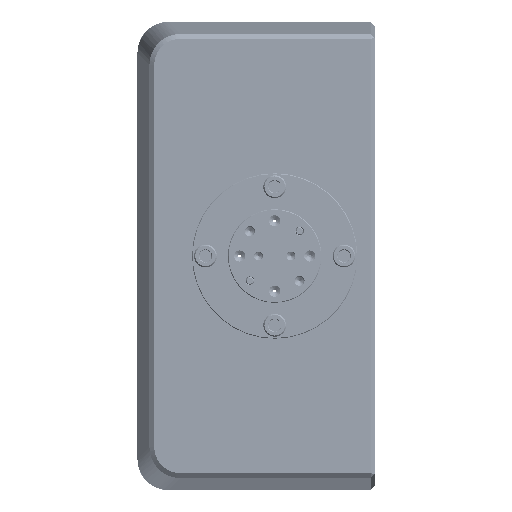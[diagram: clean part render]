
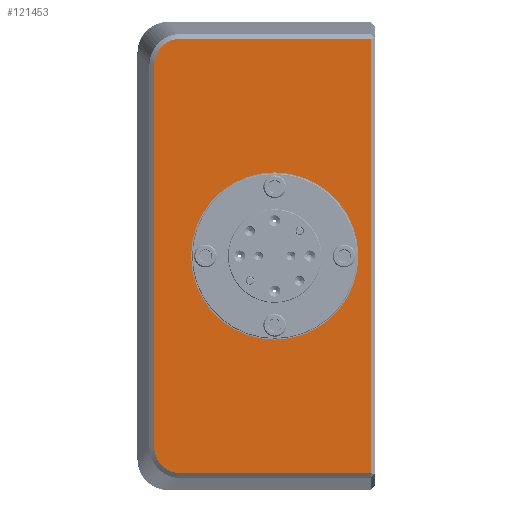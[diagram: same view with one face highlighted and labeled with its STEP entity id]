
A CAD part, left-side view. The second image highlights one B-rep face of the part: STEP entity #121453.
In plain terms, the highlighted planar face has unit normal (-1, 0, 0).
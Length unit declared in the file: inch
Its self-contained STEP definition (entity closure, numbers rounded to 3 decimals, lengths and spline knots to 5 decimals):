
#420 = EDGE_CURVE ( 'NONE', #176703, #52143, #77272, .T. ) ;
#1920 = CIRCLE ( 'NONE', #158933, 0.67 ) ;
#3138 = ORIENTED_EDGE ( 'NONE', *, *, #180523, .F. ) ;
#4277 = LINE ( 'NONE', #211951, #139910 ) ;
#6672 = CARTESIAN_POINT ( 'NONE',  ( -0.753, 1.69449, 1.68872 ) ) ;
#7291 = CARTESIAN_POINT ( 'NONE',  ( -0.753, 1.55616, -1.74008 ) ) ;
#7762 = CARTESIAN_POINT ( 'NONE',  ( -0.753, 1.76374, 1.55859 ) ) ;
#10897 = CARTESIAN_POINT ( 'NONE',  ( -0.753, 0.8, -0.67 ) ) ;
#12303 = CARTESIAN_POINT ( 'NONE',  ( -0.753, 1.55616, 1.74008 ) ) ;
#12908 = CARTESIAN_POINT ( 'NONE',  ( -0.753, 1.58359, -1.73874 ) ) ;
#15986 = CARTESIAN_POINT ( 'NONE',  ( -0.753, 0.8, 0. ) ) ;
#20774 = LINE ( 'NONE', #21866, #87847 ) ;
#21866 = CARTESIAN_POINT ( 'NONE',  ( -0.753, 1.76508, 0. ) ) ;
#23385 = CARTESIAN_POINT ( 'NONE',  ( -0.753, 1.76508, 1.54493 ) ) ;
#23494 = VERTEX_POINT ( 'NONE', #12303 ) ;
#24376 = CARTESIAN_POINT ( 'NONE',  ( -0.753, 1.56993, -1.74008 ) ) ;
#25583 = CARTESIAN_POINT ( 'NONE',  ( -0.753, 1.66105, 1.71262 ) ) ;
#31391 = EDGE_CURVE ( 'NONE', #23494, #50157, #120710, .T. ) ;
#38543 = CARTESIAN_POINT ( 'NONE',  ( -0.753, 0.8, 0. ) ) ;
#43431 = CARTESIAN_POINT ( 'NONE',  ( -0.753, 1.55616, 1.74008 ) ) ;
#45684 = CARTESIAN_POINT ( 'NONE',  ( -0.753, 1.76508, 1.53116 ) ) ;
#47516 = CARTESIAN_POINT ( 'NONE',  ( -0.753, 1.62377, -1.72945 ) ) ;
#47858 = CARTESIAN_POINT ( 'NONE',  ( -0.753, 0.95, 1.74008 ) ) ;
#50157 = VERTEX_POINT ( 'NONE', #184959 ) ;
#51376 = EDGE_CURVE ( 'NONE', #68469, #77808, #55245, .T. ) ;
#52143 = VERTEX_POINT ( 'NONE', #137331 ) ;
#55245 = LINE ( 'NONE', #209399, #183703 ) ;
#57981 = CARTESIAN_POINT ( 'NONE',  ( -0.753, 1.75445, 1.59877 ) ) ;
#59354 = DIRECTION ( 'NONE',  ( 0., 0., -1. ) ) ;
#60186 = CARTESIAN_POINT ( 'NONE',  ( -0.753, 1.58357, 1.73873 ) ) ;
#62675 = DIRECTION ( 'NONE',  ( 1., 0., 0. ) ) ;
#64584 = LINE ( 'NONE', #47858, #110090 ) ;
#68469 = VERTEX_POINT ( 'NONE', #7291 ) ;
#74623 = CARTESIAN_POINT ( 'NONE',  ( -0.753, 1.75444, -1.59878 ) ) ;
#74736 = CARTESIAN_POINT ( 'NONE',  ( -0.753, 1.73762, 1.63605 ) ) ;
#77272 = CIRCLE ( 'NONE', #123684, 0.67 ) ;
#77808 = VERTEX_POINT ( 'NONE', #151268 ) ;
#82270 = EDGE_LOOP ( 'NONE', ( #194893, #130398, #141819, #218241, #171706, #124981 ) ) ;
#84079 = DIRECTION ( 'NONE',  ( -1., 0., 0. ) ) ;
#84326 = B_SPLINE_CURVE_WITH_KNOTS ( 'NONE', 3,
 ( #109240, #178528, #127089, #114500, #74623, #216206, #200537, #201631, #143865, #210937, #116701, #150266, #125997, #47516, #96621, #12908, #24376, #110342 ),
 .UNSPECIFIED., .F., .F.,
 ( 4, 2, 2, 2, 2, 2, 2, 2, 4 ),
 ( 0., 0.125, 0.25, 0.375, 0.5, 0.625, 0.75, 0.875, 1. ),
 .UNSPECIFIED. ) ;
#87847 = VECTOR ( 'NONE', #92151, 39.37008 ) ;
#89887 = DIRECTION ( 'NONE',  ( 0., 0., 1. ) ) ;
#92146 = VERTEX_POINT ( 'NONE', #152798 ) ;
#92151 = DIRECTION ( 'NONE',  ( 0., 0., -1. ) ) ;
#92571 = CARTESIAN_POINT ( 'NONE',  ( -0.753, 1.64898, 1.71906 ) ) ;
#94775 = CARTESIAN_POINT ( 'NONE',  ( -0.753, 1.68393, 1.69737 ) ) ;
#95061 = FACE_BOUND ( 'NONE', #165072, .T. ) ;
#95894 = CARTESIAN_POINT ( 'NONE',  ( -0.753, 1.56989, 1.74008 ) ) ;
#96621 = CARTESIAN_POINT ( 'NONE',  ( -0.753, 1.61068, -1.73339 ) ) ;
#102057 = EDGE_CURVE ( 'NONE', #92146, #68469, #84326, .T. ) ;
#109240 = CARTESIAN_POINT ( 'NONE',  ( -0.753, 1.76508, -1.53116 ) ) ;
#110090 = VECTOR ( 'NONE', #115944, 39.37008 ) ;
#110342 = CARTESIAN_POINT ( 'NONE',  ( -0.753, 1.55616, -1.74008 ) ) ;
#114500 = CARTESIAN_POINT ( 'NONE',  ( -0.753, 1.75839, -1.58565 ) ) ;
#115944 = DIRECTION ( 'NONE',  ( 0., 1., 0. ) ) ;
#116540 = EDGE_CURVE ( 'NONE', #50157, #92146, #20774, .T. ) ;
#116701 = CARTESIAN_POINT ( 'NONE',  ( -0.753, 1.68393, -1.69737 ) ) ;
#119350 = ORIENTED_EDGE ( 'NONE', *, *, #420, .F. ) ;
#120679 = AXIS2_PLACEMENT_3D ( 'NONE', #182257, #62675, #59354 ) ;
#120710 = B_SPLINE_CURVE_WITH_KNOTS ( 'NONE', 3,
 ( #43431, #95894, #60186, #177523, #159652, #92571, #25583, #94775, #6672, #196467, #211044, #74736, #160749, #57981, #147333, #7762, #23385, #45684 ),
 .UNSPECIFIED., .F., .F.,
 ( 4, 2, 2, 2, 2, 2, 2, 2, 4 ),
 ( 0., 0.125, 0.25, 0.375, 0.5, 0.625, 0.75, 0.875, 1. ),
 .UNSPECIFIED. ) ;
#121453 = ADVANCED_FACE ( 'NONE', ( #95061, #177816 ), #216887, .F. ) ;
#123684 = AXIS2_PLACEMENT_3D ( 'NONE', #15986, #84079, #171250 ) ;
#124981 = ORIENTED_EDGE ( 'NONE', *, *, #116540, .T. ) ;
#125997 = CARTESIAN_POINT ( 'NONE',  ( -0.753, 1.64899, -1.71905 ) ) ;
#127089 = CARTESIAN_POINT ( 'NONE',  ( -0.753, 1.76373, -1.55857 ) ) ;
#130398 = ORIENTED_EDGE ( 'NONE', *, *, #51376, .T. ) ;
#137331 = CARTESIAN_POINT ( 'NONE',  ( -0.753, 0.8, 0.67 ) ) ;
#139910 = VECTOR ( 'NONE', #160563, 39.37008 ) ;
#140145 = DIRECTION ( 'NONE',  ( 0., -1., 0. ) ) ;
#141819 = ORIENTED_EDGE ( 'NONE', *, *, #197586, .T. ) ;
#143865 = CARTESIAN_POINT ( 'NONE',  ( -0.753, 1.71372, -1.66949 ) ) ;
#147333 = CARTESIAN_POINT ( 'NONE',  ( -0.753, 1.75839, 1.58568 ) ) ;
#150266 = CARTESIAN_POINT ( 'NONE',  ( -0.753, 1.66105, -1.71262 ) ) ;
#151268 = CARTESIAN_POINT ( 'NONE',  ( -0.753, 0.03, -1.74008 ) ) ;
#152798 = CARTESIAN_POINT ( 'NONE',  ( -0.753, 1.76508, -1.53116 ) ) ;
#155658 = VERTEX_POINT ( 'NONE', #173042 ) ;
#158933 = AXIS2_PLACEMENT_3D ( 'NONE', #38543, #189385, #89887 ) ;
#159652 = CARTESIAN_POINT ( 'NONE',  ( -0.753, 1.62378, 1.72944 ) ) ;
#160563 = DIRECTION ( 'NONE',  ( 0., 0., 1. ) ) ;
#160749 = CARTESIAN_POINT ( 'NONE',  ( -0.753, 1.74405, 1.62399 ) ) ;
#165072 = EDGE_LOOP ( 'NONE', ( #3138, #119350 ) ) ;
#171250 = DIRECTION ( 'NONE',  ( 0., 0., 1. ) ) ;
#171706 = ORIENTED_EDGE ( 'NONE', *, *, #31391, .T. ) ;
#173042 = CARTESIAN_POINT ( 'NONE',  ( -0.753, 0.03, 1.74008 ) ) ;
#176703 = VERTEX_POINT ( 'NONE', #10897 ) ;
#177523 = CARTESIAN_POINT ( 'NONE',  ( -0.753, 1.61065, 1.73339 ) ) ;
#177816 = FACE_OUTER_BOUND ( 'NONE', #82270, .T. ) ;
#178528 = CARTESIAN_POINT ( 'NONE',  ( -0.753, 1.76508, -1.54489 ) ) ;
#180523 = EDGE_CURVE ( 'NONE', #52143, #176703, #1920, .T. ) ;
#182257 = CARTESIAN_POINT ( 'NONE',  ( -0.753, 0.95, 0. ) ) ;
#183703 = VECTOR ( 'NONE', #140145, 39.37008 ) ;
#184959 = CARTESIAN_POINT ( 'NONE',  ( -0.753, 1.76508, 1.53116 ) ) ;
#186797 = EDGE_CURVE ( 'NONE', #155658, #23494, #64584, .T. ) ;
#189385 = DIRECTION ( 'NONE',  ( -1., 0., 0. ) ) ;
#194893 = ORIENTED_EDGE ( 'NONE', *, *, #102057, .T. ) ;
#196467 = CARTESIAN_POINT ( 'NONE',  ( -0.753, 1.71372, 1.6695 ) ) ;
#197586 = EDGE_CURVE ( 'NONE', #77808, #155658, #4277, .T. ) ;
#200537 = CARTESIAN_POINT ( 'NONE',  ( -0.753, 1.73762, -1.63605 ) ) ;
#201631 = CARTESIAN_POINT ( 'NONE',  ( -0.753, 1.72237, -1.65893 ) ) ;
#209399 = CARTESIAN_POINT ( 'NONE',  ( -0.753, 0.95, -1.74008 ) ) ;
#210937 = CARTESIAN_POINT ( 'NONE',  ( -0.753, 1.6945, -1.68872 ) ) ;
#211044 = CARTESIAN_POINT ( 'NONE',  ( -0.753, 1.72237, 1.65893 ) ) ;
#211951 = CARTESIAN_POINT ( 'NONE',  ( -0.753, 0.03, 0. ) ) ;
#216206 = CARTESIAN_POINT ( 'NONE',  ( -0.753, 1.74406, -1.62398 ) ) ;
#216887 = PLANE ( 'NONE',  #120679 ) ;
#218241 = ORIENTED_EDGE ( 'NONE', *, *, #186797, .T. ) ;
